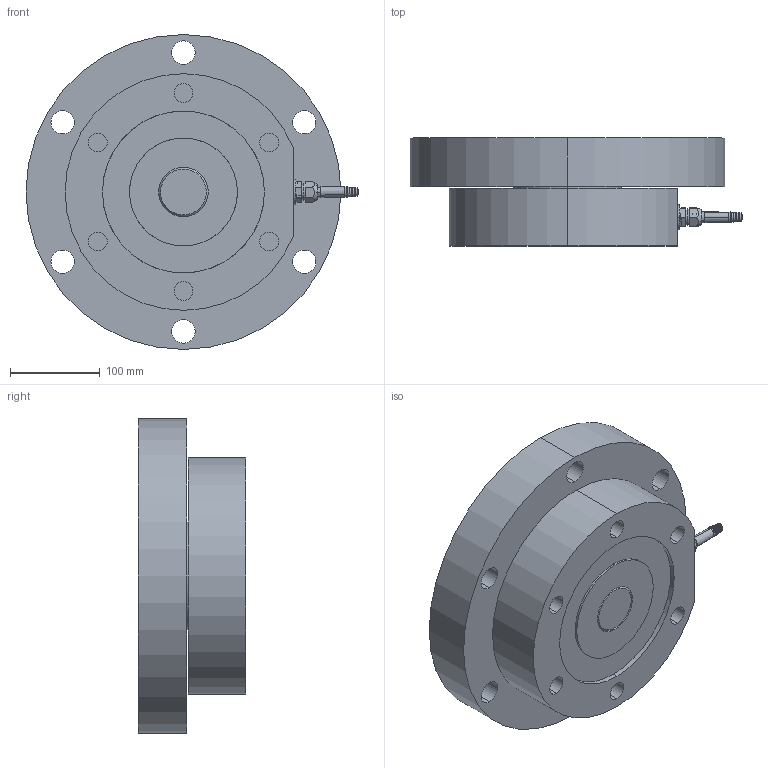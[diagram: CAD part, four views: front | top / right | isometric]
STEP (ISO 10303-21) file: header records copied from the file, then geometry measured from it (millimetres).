
FILE_DESCRIPTION (( 'STEP AP214' ), '1' );
FILE_NAME ('CLC-1 2 MN With Adapter Plate.STEP', '2021-06-17T06:44:36', ( '' ), ( '' ), 'SwSTEP 2.0', 'SolidWorks 2021', '' );
FILE_SCHEMA (( 'AUTOMOTIVE_DESIGN' ));
Length unit declared in the file: millimetre
Products named in the file (8): M26x1.5 - Pg9 - 6369829; 601013r1; Pg9 - 1009.52 6_2_14_90ø Bending of the Cablerelief; Pg9 - 1009.52 6_2_14; CLC-1 2 MN With Adapter Plate; 502082r0; 401647r2; 502081r0
Assembly tree (8 placements, depth 2):
  CLC-1 2 MN With Adapter Plate
    401647r2
    601013r1  x2
    M26x1.5 - Pg9 - 6369829
    Pg9 - 1009.52 6_2_14_90ø Bending of the Cablerelief
    Pg9 - 1009.52 6_2_14
    502081r0
    502082r0
Bounding box: 369 x 120 x 350 mm (x, y, z)
Volume: 7906477.2 mm3; surface area: 594634.1 mm2
Topology: 7 solids, 15 shells, 388 faces, 926 edges, 588 vertices
Faces by surface type: cylinder 159, cone 94, plane 83, bspline 32, torus 20
Entity records: 20729 total; most frequent: CARTESIAN_POINT 10696, DIRECTION 1820, ORIENTED_EDGE 1808, EDGE_CURVE 906, AXIS2_PLACEMENT_3D 782, VERTEX_POINT 580, EDGE_LOOP 460, CIRCLE 420
